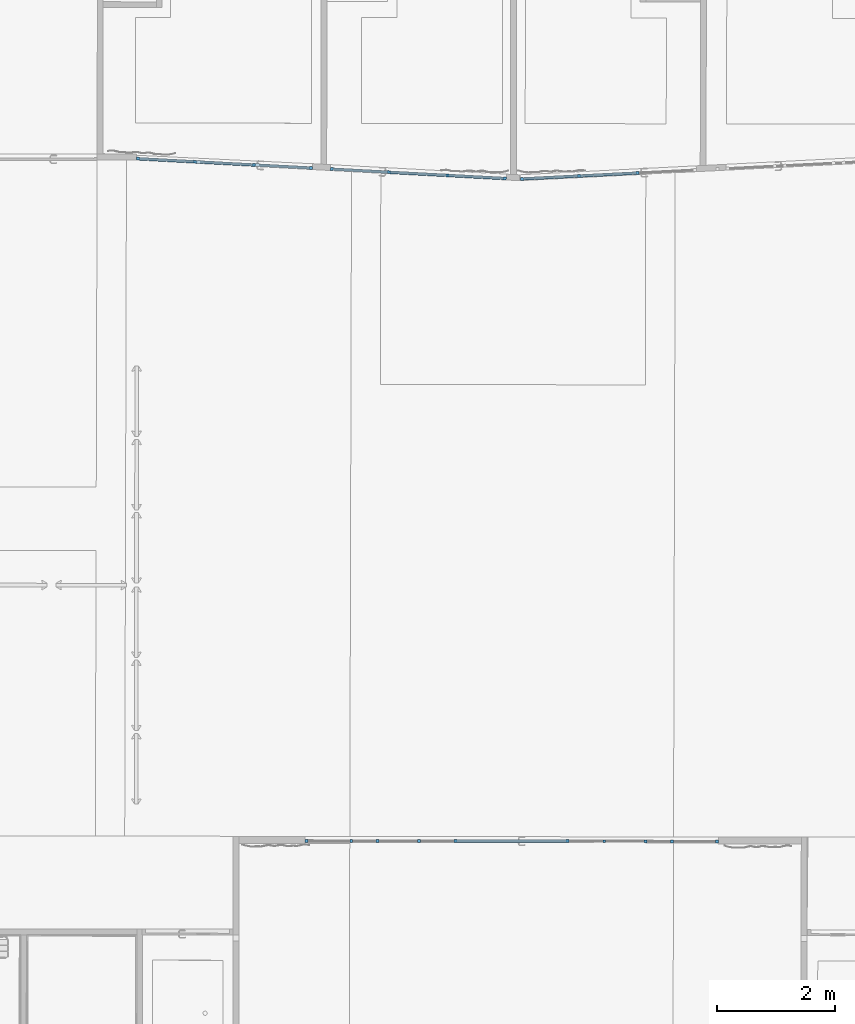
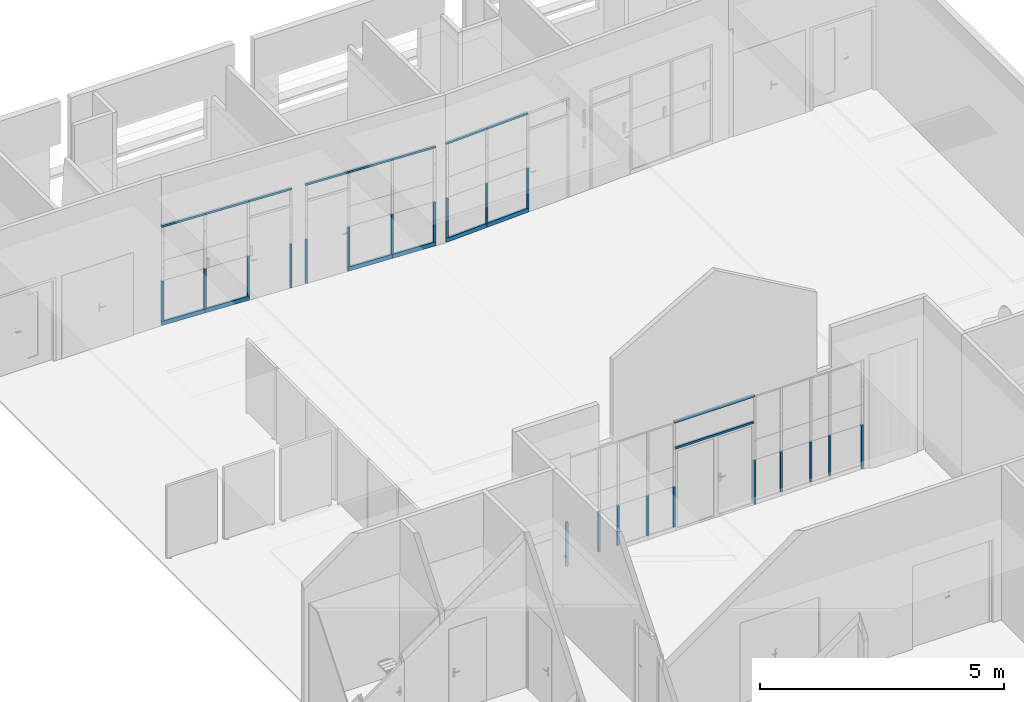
# One storey, part 1 of 43: 37 members, 4 elements without a shape of their own.
"""IFC2X3 building model written with IfcOpenShell, lengths in metres."""

from ifc_helpers import new_model, entity, si_unit, converted_unit, derived_unit, direction, frame, frame_2d, origin, origin_2d_with_axis, place, context, subcontext, project, spatial, rectangle, extrude, source, transform, mapped, material, type_object, type_shapes, element, aggregate, save


model = new_model("IFC2X3")

# Units and contexts
model_context = context("Model", 3, precision=1e-05, world=origin(), true_north=direction((6.123233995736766e-17, 1.0)))
body_context = subcontext(model_context, "Body", "Model", "MODEL_VIEW")
ifc_project = project(units=[si_unit("LENGTHUNIT", "METRE"), si_unit("AREAUNIT", "SQUARE_METRE"), converted_unit("PLANEANGLEUNIT", "DEGREE", entity("IfcPlaneAngleMeasure", 0.017453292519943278), si_unit("PLANEANGLEUNIT", "RADIAN"), dimensions=[0, 0, 0, 0, 0, 0, 0]), derived_unit("THERMALTRANSMITTANCEUNIT", [(si_unit("MASSUNIT", "GRAM", prefix="KILO"), 1), (si_unit("THERMODYNAMICTEMPERATUREUNIT", "KELVIN"), -1), (si_unit("TIMEUNIT", "SECOND"), -3)])], contexts=[model_context])

# Site, building, storey
site_placement = place(None, frame((1253.6752467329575, 2072.143113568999, 91.49999999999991), z_axis=(0.0, 0.0, 1.0), x_axis=(0.7237211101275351, 0.6900925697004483, 0.0)))
site = spatial("IfcSite", under=ifc_project, at=site_placement, Name="Surface", CompositionType="ELEMENT")
building_placement = place(site_placement, origin())
building = spatial("IfcBuilding", under=site, at=building_placement, CompositionType="ELEMENT")
storey_placement = place(building_placement, frame((0.0, 0.0, -4.629999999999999)))
storey = spatial("IfcBuildingStorey", under=building, at=storey_placement, Name="rez de rue -1.10m", CompositionType="ELEMENT", Elevation=-4.629999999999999)

# Curtain wall, members
curtain_wall_type = type_object("IfcCurtainWallType", Name="Mur-rideau:Menuiserie Int", PredefinedType="NOTDEFINED")
curtain_wall_1_placement = place(storey_placement, frame((0.0, 0.0, 4.629999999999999)))
curtain_wall_1 = element("IfcCurtainWall", 1, at=curtain_wall_1_placement, inside=storey, type_object=curtain_wall_type, Name="Mur-rideau:Menuiserie Int", ObjectType="Mur-rideau:Menuiserie Int")
ifc_material_1 = material(Name="OMD_Bois Men Int anthracite")
member_type_1 = type_object("IfcMemberType", Name="Meneau rectangulaire:50x50 Int anthracite", PredefinedType="MULLION", material=ifc_material_1)
shared_shape_1 = source(origin(), body_context, "Body", "SweptSolid", [
    extrude(rectangle(XDim=0.05, YDim=0.05000000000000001, at=origin_2d_with_axis()), frame((-0.025, 0.0, -1.0999999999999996), z_axis=(0.0, 0.0, 1.0), x_axis=(-1.0, 0.0, 0.0)), (0.0, 0.0, 1.0), 1.0999999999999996),
])
type_shapes(member_type_1, [shared_shape_1])
member_1_placement = place(curtain_wall_1_placement, frame((170.57182962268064, 1.8775533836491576, -4.629999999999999), z_axis=(0.0, 0.0, -1.0), x_axis=(-0.7227070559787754, 0.6911544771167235, 0.0)))
member_1 = element("IfcMember", 2, at=member_1_placement, type_object=member_type_1, material=ifc_material_1, Name="Meneau rectangulaire:50x50 Int anthracite", ObjectType="Meneau rectangulaire:50x50 Int anthracite", context=body_context, shape_type="MappedRepresentation", body=[
    mapped(shared_shape_1, transform((0.0, 0.0, 0.0), scale=1.0)),
])
member_type_2 = type_object("IfcMemberType", Name="Meneau rectangulaire:50x50 Int anthracite", PredefinedType="MULLION", material=ifc_material_1)
shared_shape_2 = source(origin(), body_context, "Body", "SweptSolid", [
    extrude(rectangle(XDim=0.05, YDim=0.05000000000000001, at=origin_2d_with_axis()), frame((-0.025, 0.0, -1.9062500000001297), z_axis=(0.0, 0.0, 1.0), x_axis=(-1.0, 0.0, 0.0)), (0.0, 0.0, 1.0), 1.9062500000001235),
])
type_shapes(member_type_2, [shared_shape_2])
member_2_placement = place(curtain_wall_1_placement, frame((172.42220650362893, 0.10796188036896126, -1.8899999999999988), z_axis=(-0.7227070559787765, 0.6911544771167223, 0.0), x_axis=(0.0, 0.0, 1.0)))
member_2 = element("IfcMember", 3, at=member_2_placement, type_object=member_type_2, material=ifc_material_1, Name="Meneau rectangulaire:50x50 Int anthracite", ObjectType="Meneau rectangulaire:50x50 Int anthracite", context=body_context, shape_type="MappedRepresentation", body=[
    mapped(shared_shape_2, transform((0.0, 0.0, 0.0), scale=1.0)),
])
member_type_3 = type_object("IfcMemberType", Name="Meneau rectangulaire:50x50 Int anthracite", PredefinedType="MULLION", material=ifc_material_1)
shared_shape_3 = source(origin(), body_context, "Body", "SweptSolid", [
    extrude(rectangle(XDim=0.05, YDim=0.05, at=origin_2d_with_axis()), frame((0.0, 0.0, -1.0), z_axis=(0.0, 0.0, 1.0), x_axis=(-1.0, 0.0, 0.0)), (0.0, 0.0, 1.0), 0.9999999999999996),
])
type_shapes(member_type_3, [shared_shape_3])
member_3_placement = place(curtain_wall_1_placement, frame((171.1392895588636, 1.3348681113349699, -4.529999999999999), z_axis=(0.0, 0.0, -1.0), x_axis=(-0.7227070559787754, 0.6911544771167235, 0.0)))
member_3 = element("IfcMember", 4, at=member_3_placement, type_object=member_type_3, material=ifc_material_1, Name="Meneau rectangulaire:50x50 Int anthracite", ObjectType="Meneau rectangulaire:50x50 Int anthracite", context=body_context, shape_type="MappedRepresentation", body=[
    mapped(shared_shape_3, transform((0.0, 0.0, 0.0), scale=1.0)),
])
member_4_placement = place(curtain_wall_1_placement, frame((171.46450796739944, 1.0238483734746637, -4.529999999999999), z_axis=(0.0, 0.0, -1.0), x_axis=(-0.7227070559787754, 0.6911544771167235, 0.0)))
member_4 = element("IfcMember", 5, at=member_4_placement, type_object=member_type_3, material=ifc_material_1, Name="Meneau rectangulaire:50x50 Int anthracite", ObjectType="Meneau rectangulaire:50x50 Int anthracite", context=body_context, shape_type="MappedRepresentation", body=[
    mapped(shared_shape_3, transform((0.0, 0.0, 0.0), scale=1.0)),
])
member_5_placement = place(curtain_wall_1_placement, frame((171.9705145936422, 0.5399334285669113, -4.529999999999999), z_axis=(0.0, 0.0, -1.0), x_axis=(-0.7227070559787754, 0.6911544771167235, 0.0)))
member_5 = element("IfcMember", 6, at=member_5_placement, type_object=member_type_3, material=ifc_material_1, Name="Meneau rectangulaire:50x50 Int anthracite", ObjectType="Meneau rectangulaire:50x50 Int anthracite", context=body_context, shape_type="MappedRepresentation", body=[
    mapped(shared_shape_3, transform((0.0, 0.0, 0.0), scale=1.0)),
])
member_6_placement = place(curtain_wall_1_placement, frame((172.42220650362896, 0.10796188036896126, -4.529999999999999), z_axis=(0.0, 0.0, -1.0), x_axis=(-0.7227070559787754, 0.6911544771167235, 0.0)))
member_6 = element("IfcMember", 7, at=member_6_placement, type_object=member_type_3, material=ifc_material_1, Name="Meneau rectangulaire:50x50 Int anthracite", ObjectType="Meneau rectangulaire:50x50 Int anthracite", context=body_context, shape_type="MappedRepresentation", body=[
    mapped(shared_shape_3, transform((0.0, 0.0, 0.0), scale=1.0)),
])
member_7_placement = place(curtain_wall_1_placement, frame((174.25155873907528, -1.6415228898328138, -4.529999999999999), z_axis=(0.0, 0.0, -1.0), x_axis=(-0.7227070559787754, 0.6911544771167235, 0.0)))
member_7 = element("IfcMember", 8, at=member_7_placement, type_object=member_type_3, material=ifc_material_1, Name="Meneau rectangulaire:50x50 Int anthracite", ObjectType="Meneau rectangulaire:50x50 Int anthracite", context=body_context, shape_type="MappedRepresentation", body=[
    mapped(shared_shape_3, transform((0.0, 0.0, 0.0), scale=1.0)),
])
member_8_placement = place(curtain_wall_1_placement, frame((174.75993798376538, -2.1277068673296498, -4.529999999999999), z_axis=(0.0, 0.0, -1.0), x_axis=(-0.7227070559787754, 0.6911544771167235, 0.0)))
member_8 = element("IfcMember", 9, at=member_8_placement, type_object=member_type_3, material=ifc_material_1, Name="Meneau rectangulaire:50x50 Int anthracite", ObjectType="Meneau rectangulaire:50x50 Int anthracite", context=body_context, shape_type="MappedRepresentation", body=[
    mapped(shared_shape_3, transform((0.0, 0.0, 0.0), scale=1.0)),
])
member_9_placement = place(curtain_wall_1_placement, frame((175.08518735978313, -2.4387562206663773, -4.529999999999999), z_axis=(0.0, 0.0, -1.0), x_axis=(-0.7227070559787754, 0.6911544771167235, 0.0)))
member_9 = element("IfcMember", 10, at=member_9_placement, type_object=member_type_3, material=ifc_material_1, Name="Meneau rectangulaire:50x50 Int anthracite", ObjectType="Meneau rectangulaire:50x50 Int anthracite", context=body_context, shape_type="MappedRepresentation", body=[
    mapped(shared_shape_3, transform((0.0, 0.0, 0.0), scale=1.0)),
])
member_type_4 = type_object("IfcMemberType", Name="Meneau rectangulaire:50x50 Int anthracite", PredefinedType="MULLION", material=ifc_material_1)
shared_shape_4 = source(origin(), body_context, "Body", "SweptSolid", [
    extrude(rectangle(XDim=0.05, YDim=0.05, at=frame_2d((0.0, -1.734723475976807e-18), x_axis=(1.0, 0.0))), frame((0.0, 0.0, -1.0999999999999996), z_axis=(0.0, 0.0, 1.0), x_axis=(-1.0, 0.0, 0.0)), (0.0, 0.0, 1.0), 1.0999999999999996),
])
type_shapes(member_type_4, [shared_shape_4])
member_10_placement = place(curtain_wall_1_placement, frame((173.79986682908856, -1.209551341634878, -4.629999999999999), z_axis=(0.0, 0.0, -1.0), x_axis=(-0.7227070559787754, 0.6911544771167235, 0.0)))
member_10 = element("IfcMember", 11, at=member_10_placement, type_object=member_type_4, material=ifc_material_1, Name="Meneau rectangulaire:50x50 Int anthracite", ObjectType="Meneau rectangulaire:50x50 Int anthracite", context=body_context, shape_type="MappedRepresentation", body=[
    mapped(shared_shape_4, transform((0.0, 0.0, 0.0), scale=1.0)),
])
member_type_5 = type_object("IfcMemberType", Name="Meneau rectangulaire:50x50 Int anthracite", PredefinedType="MULLION", material=ifc_material_1)
shared_shape_5 = source(origin(), body_context, "Body", "SweptSolid", [
    extrude(rectangle(XDim=0.05, YDim=0.05, at=frame_2d((0.0, 1.734723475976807e-18), x_axis=(1.0, 0.0))), frame((0.0, 0.0, -1.856250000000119), z_axis=(0.0, 0.0, 1.0), x_axis=(-1.0, 0.0, 0.0)), (0.0, 0.0, 1.0), 1.8562500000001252),
])
type_shapes(member_type_5, [shared_shape_5])
member_11_placement = place(curtain_wall_1_placement, frame((172.44027418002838, 0.09068301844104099, -2.57), z_axis=(-0.7227070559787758, 0.691154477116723, 0.0), x_axis=(0.0, 0.0, 1.0)))
member_11 = element("IfcMember", 12, at=member_11_placement, type_object=member_type_5, material=ifc_material_1, Name="Meneau rectangulaire:50x50 Int anthracite", ObjectType="Meneau rectangulaire:50x50 Int anthracite", context=body_context, shape_type="MappedRepresentation", body=[
    mapped(shared_shape_5, transform((0.0, 0.0, 0.0), scale=1.0)),
])
member_type_6 = type_object("IfcMemberType", Name="Meneau rectangulaire:50x50 Int anthracite", PredefinedType="MULLION", material=ifc_material_1)
shared_shape_6 = source(origin(), body_context, "Body", "SweptSolid", [
    extrude(rectangle(XDim=0.05, YDim=0.05, at=origin_2d_with_axis()), frame((-0.025, 0.0, -1.0999999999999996), z_axis=(0.0, 0.0, 1.0), x_axis=(-1.0, 0.0, 0.0)), (0.0, 0.0, 1.0), 1.0999999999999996),
])
type_shapes(member_type_6, [shared_shape_6])
member_12_placement = place(curtain_wall_1_placement, frame((175.6536104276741, -2.9823625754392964, -3.5299999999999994), z_axis=(0.0, 0.0, 1.0), x_axis=(0.7227070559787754, -0.6911544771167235, 0.0)))
member_12 = element("IfcMember", 13, at=member_12_placement, type_object=member_type_6, material=ifc_material_1, Name="Meneau rectangulaire:50x50 Int anthracite", ObjectType="Meneau rectangulaire:50x50 Int anthracite", context=body_context, shape_type="MappedRepresentation", body=[
    mapped(shared_shape_6, transform((0.0, 0.0, 0.0), scale=1.0)),
])
aggregate(curtain_wall_1, [member_1, member_2, member_3, member_4, member_5, member_6, member_10, member_7, member_8, member_9, member_11, member_12])

curtain_wall_2_placement = place(storey_placement, frame((0.0, 0.0, 4.629999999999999)))
curtain_wall_2 = element("IfcCurtainWall", 14, at=curtain_wall_2_placement, inside=storey, type_object=curtain_wall_type, Name="Mur-rideau:Menuiserie Int", ObjectType="Mur-rideau:Menuiserie Int")
ifc_material_2 = material(Name="OMD_Bois Men Int")
member_type_7 = type_object("IfcMemberType", Name="Meneau rectangulaire:50x50 Int", PredefinedType="MULLION", material=ifc_material_2)
shared_shape_7 = source(origin(), body_context, "Body", "SweptSolid", [
    extrude(rectangle(XDim=0.05, YDim=0.049999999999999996, at=origin_2d_with_axis()), frame((-0.025, 0.0, -1.0), z_axis=(0.0, 0.0, 1.0), x_axis=(-1.0, 0.0, 0.0)), (0.0, 0.0, 1.0), 0.9999999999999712),
])
type_shapes(member_type_7, [shared_shape_7])
member_13_placement = place(curtain_wall_2_placement, frame((180.82798152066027, 7.671848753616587, -2.1299999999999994), z_axis=(0.6855443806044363, -0.7280308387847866, 0.0), x_axis=(0.0, 0.0, 1.0)))
member_13 = element("IfcMember", 15, at=member_13_placement, type_object=member_type_7, material=ifc_material_2, Name="Meneau rectangulaire:50x50 Int", ObjectType="Meneau rectangulaire:50x50 Int", context=body_context, shape_type="MappedRepresentation", body=[
    mapped(shared_shape_7, transform((0.0, 0.0, 0.0), scale=1.0)),
])
member_type_8 = type_object("IfcMemberType", Name="Meneau rectangulaire:50x50 Int", PredefinedType="MULLION", material=ifc_material_2)
shared_shape_8 = source(origin(), body_context, "Body", "SweptSolid", [
    extrude(rectangle(XDim=0.05, YDim=0.049999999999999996, at=origin_2d_with_axis()), frame((-0.025, 0.0, -1.0), z_axis=(0.0, 0.0, 1.0), x_axis=(-1.0, 0.0, 0.0)), (0.0, 0.0, 1.0), 1.0),
])
type_shapes(member_type_8, [shared_shape_8])
member_14_placement = place(curtain_wall_2_placement, frame((180.82798152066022, 7.671848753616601, -4.529999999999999), z_axis=(0.0, 0.0, -1.0), x_axis=(0.6855443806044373, -0.7280308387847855, 0.0)))
member_14 = element("IfcMember", 16, at=member_14_placement, type_object=member_type_8, material=ifc_material_2, Name="Meneau rectangulaire:50x50 Int", ObjectType="Meneau rectangulaire:50x50 Int", context=body_context, shape_type="MappedRepresentation", body=[
    mapped(shared_shape_8, transform((0.0, 0.0, 0.0), scale=1.0)),
])
member_type_9 = type_object("IfcMemberType", Name="Meneau rectangulaire:50x50 Int", PredefinedType="MULLION", material=ifc_material_2)
shared_shape_9 = source(origin(), body_context, "Body", "SweptSolid", [
    extrude(rectangle(XDim=0.05, YDim=0.05000000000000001, at=origin_2d_with_axis()), frame((-0.025, 0.0, -1.0), z_axis=(0.0, 0.0, 1.0), x_axis=(-1.0, 0.0, 0.0)), (0.0, 0.0, 1.0), 1.000000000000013),
])
type_shapes(member_type_9, [shared_shape_9])
member_15_placement = place(curtain_wall_2_placement, frame((179.4568927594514, 9.127910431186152, -2.1299999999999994), z_axis=(0.6855443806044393, -0.7280308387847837, 0.0), x_axis=(0.0, 0.0, 1.0)))
member_15 = element("IfcMember", 17, at=member_15_placement, type_object=member_type_9, material=ifc_material_2, Name="Meneau rectangulaire:50x50 Int", ObjectType="Meneau rectangulaire:50x50 Int", context=body_context, shape_type="MappedRepresentation", body=[
    mapped(shared_shape_9, transform((0.0, 0.0, 0.0), scale=1.0)),
])

# Curtain wall, member
curtain_wall_3_placement = place(storey_placement, frame((0.0, 0.0, 4.629999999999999)))
curtain_wall_3 = element("IfcCurtainWall", 18, at=curtain_wall_3_placement, inside=storey, type_object=curtain_wall_type, Name="Mur-rideau:Menuiserie Int", ObjectType="Mur-rideau:Menuiserie Int")
member_16_placement = place(curtain_wall_3_placement, frame((181.75418461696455, 6.848637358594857, -2.1299999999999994), z_axis=(0.7578888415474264, -0.6523837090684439, 0.0), x_axis=(0.0, 0.0, 1.0)))
member_16 = element("IfcMember", 19, at=member_16_placement, type_object=member_type_9, material=ifc_material_2, Name="Meneau rectangulaire:50x50 Int", ObjectType="Meneau rectangulaire:50x50 Int", context=body_context, shape_type="MappedRepresentation", body=[
    mapped(shared_shape_9, transform((0.0, 0.0, 0.0), scale=1.0)),
])

# Member
member_type_10 = type_object("IfcMemberType", Name="Meneau rectangulaire:ht 100x50", PredefinedType="MULLION", material=ifc_material_2)
shared_shape_10 = source(origin(), body_context, "Body", "SweptSolid", [
    extrude(rectangle(XDim=0.09999999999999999, YDim=0.05, at=origin_2d_with_axis()), frame((-0.049999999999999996, 0.0, -1.02499999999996), z_axis=(0.0, 0.0, 1.0), x_axis=(-1.0, 0.0, 0.0)), (0.0, 0.0, 1.0), 1.0249999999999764),
])
type_shapes(member_type_10, [shared_shape_10])
member_17_placement = place(curtain_wall_2_placement, frame((179.43975414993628, 9.146111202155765, -4.629999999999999), z_axis=(-0.6855443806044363, 0.7280308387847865, 0.0), x_axis=(0.0, 0.0, -1.0)))
member_17 = element("IfcMember", 20, at=member_17_placement, type_object=member_type_10, material=ifc_material_2, Name="Meneau rectangulaire:ht 100x50", ObjectType="Meneau rectangulaire:ht 100x50", context=body_context, shape_type="MappedRepresentation", body=[
    mapped(shared_shape_10, transform((0.0, 0.0, 0.0), scale=1.0)),
])

member_type_11 = type_object("IfcMemberType", Name="Meneau rectangulaire:50x50 Int", PredefinedType="MULLION", material=ifc_material_2)
shared_shape_11 = source(origin(), body_context, "Body", "SweptSolid", [
    extrude(rectangle(XDim=0.05, YDim=0.05, at=frame_2d((0.0, -1.734723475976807e-18), x_axis=(1.0, 0.0))), frame((0.0, 0.0, -1.0), z_axis=(0.0, 0.0, 1.0), x_axis=(-1.0, 0.0, 0.0)), (0.0, 0.0, 1.0), 1.0),
])
type_shapes(member_type_11, [shared_shape_11])
member_18_placement = place(curtain_wall_2_placement, frame((179.4568927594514, 9.127910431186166, -4.529999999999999), z_axis=(0.0, 0.0, -1.0), x_axis=(0.6855443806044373, -0.7280308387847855, 0.0)))
member_18 = element("IfcMember", 21, at=member_18_placement, type_object=member_type_11, material=ifc_material_2, Name="Meneau rectangulaire:50x50 Int", ObjectType="Meneau rectangulaire:50x50 Int", context=body_context, shape_type="MappedRepresentation", body=[
    mapped(shared_shape_11, transform((0.0, 0.0, 0.0), scale=1.0)),
])

member_19_placement = place(curtain_wall_2_placement, frame((180.1424371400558, 8.39987959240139, -4.529999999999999), z_axis=(0.0, 0.0, -1.0), x_axis=(0.6855443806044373, -0.7280308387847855, 0.0)))
member_19 = element("IfcMember", 22, at=member_19_placement, type_object=member_type_11, material=ifc_material_2, Name="Meneau rectangulaire:50x50 Int", ObjectType="Meneau rectangulaire:50x50 Int", context=body_context, shape_type="MappedRepresentation", body=[
    mapped(shared_shape_11, transform((0.0, 0.0, 0.0), scale=1.0)),
])

member_20_placement = place(curtain_wall_3_placement, frame((181.75418461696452, 6.848637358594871, -4.529999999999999), z_axis=(0.0, 0.0, -1.0), x_axis=(0.7578888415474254, -0.6523837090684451, 0.0)))
member_20 = element("IfcMember", 23, at=member_20_placement, type_object=member_type_11, material=ifc_material_2, Name="Meneau rectangulaire:50x50 Int", ObjectType="Meneau rectangulaire:50x50 Int", context=body_context, shape_type="MappedRepresentation", body=[
    mapped(shared_shape_11, transform((0.0, 0.0, 0.0), scale=1.0)),
])

member_21_placement = place(curtain_wall_3_placement, frame((182.51207345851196, 6.19625364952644, -4.529999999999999), z_axis=(0.0, 0.0, -1.0), x_axis=(0.7578888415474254, -0.6523837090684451, 0.0)))
member_21 = element("IfcMember", 24, at=member_21_placement, type_object=member_type_11, material=ifc_material_2, Name="Meneau rectangulaire:50x50 Int", ObjectType="Meneau rectangulaire:50x50 Int", context=body_context, shape_type="MappedRepresentation", body=[
    mapped(shared_shape_11, transform((0.0, 0.0, 0.0), scale=1.0)),
])

member_type_12 = type_object("IfcMemberType", Name="Meneau rectangulaire:50x50 Int", PredefinedType="MULLION", material=ifc_material_2)
shared_shape_12 = source(origin(), body_context, "Body", "SweptSolid", [
    extrude(rectangle(XDim=0.05, YDim=0.05, at=origin_2d_with_axis()), frame((-0.025, 0.0, -1.1), z_axis=(0.0, 0.0, 1.0), x_axis=(-1.0, 0.0, 0.0)), (0.0, 0.0, 1.0), 1.1),
])
type_shapes(member_type_12, [shared_shape_12])
member_22_placement = place(curtain_wall_2_placement, frame((178.77134837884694, 9.855941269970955, -3.529999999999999), z_axis=(0.0, 0.0, 1.0), x_axis=(-0.6855443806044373, 0.7280308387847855, 0.0)))
member_22 = element("IfcMember", 25, at=member_22_placement, type_object=member_type_12, material=ifc_material_2, Name="Meneau rectangulaire:50x50 Int", ObjectType="Meneau rectangulaire:50x50 Int", context=body_context, shape_type="MappedRepresentation", body=[
    mapped(shared_shape_12, transform((0.0, 0.0, 0.0), scale=1.0)),
])

member_type_13 = type_object("IfcMemberType", Name="Meneau rectangulaire:50x50 Int", PredefinedType="MULLION", material=ifc_material_2)
shared_shape_13 = source(origin(), body_context, "Body", "SweptSolid", [
    extrude(rectangle(XDim=0.05, YDim=0.05, at=origin_2d_with_axis()), frame((-0.025, 0.0, -1.0), z_axis=(0.0, 0.0, 1.0), x_axis=(-1.0, 0.0, 0.0)), (0.0, 0.0, 1.0), 0.9999999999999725),
])
type_shapes(member_type_13, [shared_shape_13])
member_23_placement = place(curtain_wall_2_placement, frame((180.1424371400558, 8.39987959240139, -2.1299999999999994), z_axis=(0.6855443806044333, -0.7280308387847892, 0.0), x_axis=(0.0, 0.0, 1.0)))
member_23 = element("IfcMember", 26, at=member_23_placement, type_object=member_type_13, material=ifc_material_2, Name="Meneau rectangulaire:50x50 Int", ObjectType="Meneau rectangulaire:50x50 Int", context=body_context, shape_type="MappedRepresentation", body=[
    mapped(shared_shape_13, transform((0.0, 0.0, 0.0), scale=1.0)),
])

member_24_placement = place(curtain_wall_3_placement, frame((182.51207345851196, 6.196253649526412, -2.1299999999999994), z_axis=(0.7578888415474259, -0.6523837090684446, 0.0), x_axis=(0.0, 0.0, 1.0)))
member_24 = element("IfcMember", 27, at=member_24_placement, type_object=member_type_13, material=ifc_material_2, Name="Meneau rectangulaire:50x50 Int", ObjectType="Meneau rectangulaire:50x50 Int", context=body_context, shape_type="MappedRepresentation", body=[
    mapped(shared_shape_13, transform((0.0, 0.0, 0.0), scale=1.0)),
])

member_type_14 = type_object("IfcMemberType", Name="Meneau rectangulaire:ht 100x50", PredefinedType="MULLION", material=ifc_material_2)
shared_shape_14 = source(origin(), body_context, "Body", "SweptSolid", [
    extrude(rectangle(XDim=0.09999999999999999, YDim=0.05, at=origin_2d_with_axis()), frame((-0.049999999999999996, 0.0, -1.0), z_axis=(0.0, 0.0, 1.0), x_axis=(-1.0, 0.0, 0.0)), (0.0, 0.0, 1.0), 1.0000000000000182),
])
type_shapes(member_type_14, [shared_shape_14])
member_25_placement = place(curtain_wall_2_placement, frame((180.14243714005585, 8.399879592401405, -4.629999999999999), z_axis=(-0.6855443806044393, 0.7280308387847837, 0.0), x_axis=(0.0, 0.0, -1.0)))
member_25 = element("IfcMember", 28, at=member_25_placement, type_object=member_type_14, material=ifc_material_2, Name="Meneau rectangulaire:ht 100x50", ObjectType="Meneau rectangulaire:ht 100x50", context=body_context, shape_type="MappedRepresentation", body=[
    mapped(shared_shape_14, transform((0.0, 0.0, 0.0), scale=1.0)),
])

aggregate(curtain_wall_2, [member_13, member_14, member_15, member_17, member_18, member_22, member_23, member_25, member_19])

member_type_15 = type_object("IfcMemberType", Name="Meneau rectangulaire:ht 100x50", PredefinedType="MULLION", material=ifc_material_2)
shared_shape_15 = source(origin(), body_context, "Body", "SweptSolid", [
    extrude(rectangle(XDim=0.09999999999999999, YDim=0.05, at=origin_2d_with_axis()), frame((-0.049999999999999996, 0.0, -1.0), z_axis=(0.0, 0.0, 1.0), x_axis=(-1.0, 0.0, 0.0)), (0.0, 0.0, 1.0), 0.9999999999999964),
])
type_shapes(member_type_15, [shared_shape_15])
member_26_placement = place(curtain_wall_3_placement, frame((180.99629577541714, 7.501021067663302, -4.629999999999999), z_axis=(-0.7578888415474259, 0.6523837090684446, 0.0), x_axis=(0.0, 0.0, -1.0)))
member_26 = element("IfcMember", 29, at=member_26_placement, type_object=member_type_15, material=ifc_material_2, Name="Meneau rectangulaire:ht 100x50", ObjectType="Meneau rectangulaire:ht 100x50", context=body_context, shape_type="MappedRepresentation", body=[
    mapped(shared_shape_15, transform((0.0, 0.0, 0.0), scale=1.0)),
])

member_type_16 = type_object("IfcMemberType", Name="Meneau rectangulaire:ht 100x50", PredefinedType="MULLION", material=ifc_material_2)
shared_shape_16 = source(origin(), body_context, "Body", "SweptSolid", [
    extrude(rectangle(XDim=0.09999999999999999, YDim=0.05, at=origin_2d_with_axis()), frame((-0.049999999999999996, 0.0, -1.0249999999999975), z_axis=(0.0, 0.0, 1.0), x_axis=(-1.0, 0.0, 0.0)), (0.0, 0.0, 1.0), 1.024999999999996),
])
type_shapes(member_type_16, [shared_shape_16])
member_27_placement = place(curtain_wall_3_placement, frame((181.75418461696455, 6.848637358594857, -4.629999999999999), z_axis=(-0.7578888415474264, 0.6523837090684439, 0.0), x_axis=(0.0, 0.0, -1.0)))
member_27 = element("IfcMember", 30, at=member_27_placement, type_object=member_type_16, material=ifc_material_2, Name="Meneau rectangulaire:ht 100x50", ObjectType="Meneau rectangulaire:ht 100x50", context=body_context, shape_type="MappedRepresentation", body=[
    mapped(shared_shape_16, transform((0.0, 0.0, 0.0), scale=1.0)),
])

member_type_17 = type_object("IfcMemberType", Name="Meneau rectangulaire:50x50 Int", PredefinedType="MULLION", material=ifc_material_2)
shared_shape_17 = source(origin(), body_context, "Body", "SweptSolid", [
    extrude(rectangle(XDim=0.05, YDim=0.05000000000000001, at=origin_2d_with_axis()), frame((-0.025, 0.0, -1.0), z_axis=(0.0, 0.0, 1.0), x_axis=(-1.0, 0.0, 0.0)), (0.0, 0.0, 1.0), 0.9999999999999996),
])
type_shapes(member_type_17, [shared_shape_17])
member_28_placement = place(curtain_wall_3_placement, frame((180.99629577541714, 7.501021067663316, -3.5299999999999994), z_axis=(0.0, 0.0, 1.0), x_axis=(-0.7578888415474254, 0.6523837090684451, 0.0)))
member_28 = element("IfcMember", 31, at=member_28_placement, type_object=member_type_17, material=ifc_material_2, Name="Meneau rectangulaire:50x50 Int", ObjectType="Meneau rectangulaire:50x50 Int", context=body_context, shape_type="MappedRepresentation", body=[
    mapped(shared_shape_17, transform((0.0, 0.0, 0.0), scale=1.0)),
])

aggregate(curtain_wall_3, [member_26, member_16, member_27, member_20, member_28, member_24, member_21])

# Curtain wall, members
curtain_wall_4_placement = place(storey_placement, frame((0.0, 0.0, 4.629999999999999)))
curtain_wall_4 = element("IfcCurtainWall", 32, at=curtain_wall_4_placement, inside=storey, type_object=curtain_wall_type, Name="Mur-rideau:Menuiserie Int", ObjectType="Mur-rideau:Menuiserie Int")
member_type_18 = type_object("IfcMemberType", Name="Meneau rectangulaire:50x50 Int", PredefinedType="MULLION", material=ifc_material_2)
shared_shape_18 = source(origin(), body_context, "Body", "SweptSolid", [
    extrude(rectangle(XDim=0.05, YDim=0.05, at=frame_2d((0.0, 1.734723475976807e-18), x_axis=(1.0, 0.0))), frame((-0.025, 0.0, -1.0), z_axis=(0.0, 0.0, 1.0), x_axis=(-1.0, 0.0, 0.0)), (0.0, 0.0, 1.0), 1.000000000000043),
])
type_shapes(member_type_18, [shared_shape_18])
member_29_placement = place(curtain_wall_4_placement, frame((176.50665178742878, 12.260991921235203, -2.1299999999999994), z_axis=(-0.6855443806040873, 0.7280308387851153, 0.0), x_axis=(0.0, 0.0, 1.0)))
member_29 = element("IfcMember", 33, at=member_29_placement, type_object=member_type_18, material=ifc_material_2, Name="Meneau rectangulaire:50x50 Int", ObjectType="Meneau rectangulaire:50x50 Int", context=body_context, shape_type="MappedRepresentation", body=[
    mapped(shared_shape_18, transform((0.0, 0.0, 0.0), scale=1.0)),
])
member_type_19 = type_object("IfcMemberType", Name="Meneau rectangulaire:50x50 Int", PredefinedType="MULLION", material=ifc_material_2)
shared_shape_19 = source(origin(), body_context, "Body", "SweptSolid", [
    extrude(rectangle(XDim=0.05, YDim=0.05, at=origin_2d_with_axis()), frame((-0.025, 0.0, -1.0), z_axis=(0.0, 0.0, 1.0), x_axis=(-1.0, 0.0, 0.0)), (0.0, 0.0, 1.0), 1.0),
])
type_shapes(member_type_19, [shared_shape_19])
member_30_placement = place(curtain_wall_4_placement, frame((176.50665178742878, 12.260991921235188, -4.529999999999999), z_axis=(0.0, 0.0, -1.0), x_axis=(-0.6855443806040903, 0.7280308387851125, 0.0)))
member_30 = element("IfcMember", 34, at=member_30_placement, type_object=member_type_19, material=ifc_material_2, Name="Meneau rectangulaire:50x50 Int", ObjectType="Meneau rectangulaire:50x50 Int", context=body_context, shape_type="MappedRepresentation", body=[
    mapped(shared_shape_19, transform((0.0, 0.0, 0.0), scale=1.0)),
])
member_type_20 = type_object("IfcMemberType", Name="Meneau rectangulaire:50x50 Int", PredefinedType="MULLION", material=ifc_material_2)
shared_shape_20 = source(origin(), body_context, "Body", "SweptSolid", [
    extrude(rectangle(XDim=0.05, YDim=0.05000000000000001, at=origin_2d_with_axis()), frame((-0.025, 0.0, -1.0), z_axis=(0.0, 0.0, 1.0), x_axis=(-1.0, 0.0, 0.0)), (0.0, 0.0, 1.0), 0.9999999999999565),
])
type_shapes(member_type_20, [shared_shape_20])
member_31_placement = place(curtain_wall_4_placement, frame((177.19219555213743, 11.532961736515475, -2.1299999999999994), z_axis=(-0.6855443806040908, 0.7280308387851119, 0.0), x_axis=(0.0, 0.0, 1.0)))
member_31 = element("IfcMember", 35, at=member_31_placement, type_object=member_type_20, material=ifc_material_2, Name="Meneau rectangulaire:50x50 Int", ObjectType="Meneau rectangulaire:50x50 Int", context=body_context, shape_type="MappedRepresentation", body=[
    mapped(shared_shape_20, transform((0.0, 0.0, 0.0), scale=1.0)),
])
member_type_21 = type_object("IfcMemberType", Name="Meneau rectangulaire:ht 100x50", PredefinedType="MULLION", material=ifc_material_2)
shared_shape_21 = source(origin(), body_context, "Body", "SweptSolid", [
    extrude(rectangle(XDim=0.09999999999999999, YDim=0.05, at=origin_2d_with_axis()), frame((-0.049999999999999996, 0.0, -1.0), z_axis=(0.0, 0.0, 1.0), x_axis=(-1.0, 0.0, 0.0)), (0.0, 0.0, 1.0), 1.000000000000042),
])
type_shapes(member_type_21, [shared_shape_21])
member_32_placement = place(curtain_wall_4_placement, frame((177.1921955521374, 11.532961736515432, -4.629999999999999), z_axis=(0.6855443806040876, -0.7280308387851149, 0.0), x_axis=(0.0, 0.0, -1.0)))
member_32 = element("IfcMember", 36, at=member_32_placement, type_object=member_type_21, material=ifc_material_2, Name="Meneau rectangulaire:ht 100x50", ObjectType="Meneau rectangulaire:ht 100x50", context=body_context, shape_type="MappedRepresentation", body=[
    mapped(shared_shape_21, transform((0.0, 0.0, 0.0), scale=1.0)),
])
member_type_22 = type_object("IfcMemberType", Name="Meneau rectangulaire:50x50 Int", PredefinedType="MULLION", material=ifc_material_2)
shared_shape_22 = source(origin(), body_context, "Body", "SweptSolid", [
    extrude(rectangle(XDim=0.05, YDim=0.05, at=origin_2d_with_axis()), frame((-0.025, 0.0, -1.0), z_axis=(0.0, 0.0, 1.0), x_axis=(-1.0, 0.0, 0.0)), (0.0, 0.0, 1.0), 0.9999999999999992),
])
type_shapes(member_type_22, [shared_shape_22])
member_33_placement = place(curtain_wall_4_placement, frame((177.87773993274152, 10.804930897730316, -2.1299999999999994), z_axis=(-0.685544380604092, 0.7280308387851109, 0.0), x_axis=(0.0, 0.0, 1.0)))
member_33 = element("IfcMember", 37, at=member_33_placement, type_object=member_type_22, material=ifc_material_2, Name="Meneau rectangulaire:50x50 Int", ObjectType="Meneau rectangulaire:50x50 Int", context=body_context, shape_type="MappedRepresentation", body=[
    mapped(shared_shape_22, transform((0.0, 0.0, 0.0), scale=1.0)),
])
member_type_23 = type_object("IfcMemberType", Name="Meneau rectangulaire:ht 100x50", PredefinedType="MULLION", material=ifc_material_2)
shared_shape_23 = source(origin(), body_context, "Body", "SweptSolid", [
    extrude(rectangle(XDim=0.09999999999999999, YDim=0.05, at=origin_2d_with_axis()), frame((-0.049999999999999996, 0.0, -1.024999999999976), z_axis=(0.0, 0.0, 1.0), x_axis=(-1.0, 0.0, 0.0)), (0.0, 0.0, 1.0), 1.0249999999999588),
])
type_shapes(member_type_23, [shared_shape_23])
member_34_placement = place(curtain_wall_4_placement, frame((177.89487854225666, 10.78673012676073, -4.629999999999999), z_axis=(0.685544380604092, -0.7280308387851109, 0.0), x_axis=(0.0, 0.0, -1.0)))
member_34 = element("IfcMember", 38, at=member_34_placement, type_object=member_type_23, material=ifc_material_2, Name="Meneau rectangulaire:ht 100x50", ObjectType="Meneau rectangulaire:ht 100x50", context=body_context, shape_type="MappedRepresentation", body=[
    mapped(shared_shape_23, transform((0.0, 0.0, 0.0), scale=1.0)),
])
member_type_24 = type_object("IfcMemberType", Name="Meneau rectangulaire:50x50 Int", PredefinedType="MULLION", material=ifc_material_2)
shared_shape_24 = source(origin(), body_context, "Body", "SweptSolid", [
    extrude(rectangle(XDim=0.05, YDim=0.05, at=origin_2d_with_axis()), frame((-0.025, 0.0, -1.1), z_axis=(0.0, 0.0, 1.0), x_axis=(-1.0, 0.0, 0.0)), (0.0, 0.0, 1.0), 1.1),
])
type_shapes(member_type_24, [shared_shape_24])
member_35_placement = place(curtain_wall_4_placement, frame((178.56328431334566, 10.076900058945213, -3.529999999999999), z_axis=(0.0, 0.0, 1.0), x_axis=(0.6855443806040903, -0.7280308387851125, 0.0)))
member_35 = element("IfcMember", 39, at=member_35_placement, type_object=member_type_24, material=ifc_material_2, Name="Meneau rectangulaire:50x50 Int", ObjectType="Meneau rectangulaire:50x50 Int", context=body_context, shape_type="MappedRepresentation", body=[
    mapped(shared_shape_24, transform((0.0, 0.0, 0.0), scale=1.0)),
])
member_type_25 = type_object("IfcMemberType", Name="Meneau rectangulaire:50x50 Int", PredefinedType="MULLION", material=ifc_material_2)
shared_shape_25 = source(origin(), body_context, "Body", "SweptSolid", [
    extrude(rectangle(XDim=0.05, YDim=0.05, at=frame_2d((0.0, 1.734723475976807e-18), x_axis=(1.0, 0.0))), frame((0.0, 0.0, -1.0), z_axis=(0.0, 0.0, 1.0), x_axis=(-1.0, 0.0, 0.0)), (0.0, 0.0, 1.0), 1.0),
])
type_shapes(member_type_25, [shared_shape_25])
member_36_placement = place(curtain_wall_4_placement, frame((177.19219555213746, 11.53296173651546, -4.529999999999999), z_axis=(0.0, 0.0, -1.0), x_axis=(-0.6855443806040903, 0.7280308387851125, 0.0)))
member_36 = element("IfcMember", 40, at=member_36_placement, type_object=member_type_25, material=ifc_material_2, Name="Meneau rectangulaire:50x50 Int", ObjectType="Meneau rectangulaire:50x50 Int", context=body_context, shape_type="MappedRepresentation", body=[
    mapped(shared_shape_25, transform((0.0, 0.0, 0.0), scale=1.0)),
])
member_37_placement = place(curtain_wall_4_placement, frame((177.87773993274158, 10.804930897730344, -4.529999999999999), z_axis=(0.0, 0.0, -1.0), x_axis=(-0.6855443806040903, 0.7280308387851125, 0.0)))
member_37 = element("IfcMember", 41, at=member_37_placement, type_object=member_type_25, material=ifc_material_2, Name="Meneau rectangulaire:50x50 Int", ObjectType="Meneau rectangulaire:50x50 Int", context=body_context, shape_type="MappedRepresentation", body=[
    mapped(shared_shape_25, transform((0.0, 0.0, 0.0), scale=1.0)),
])
aggregate(curtain_wall_4, [member_29, member_30, member_33, member_34, member_31, member_36, member_32, member_35, member_37])

save(model, "model.ifc")
